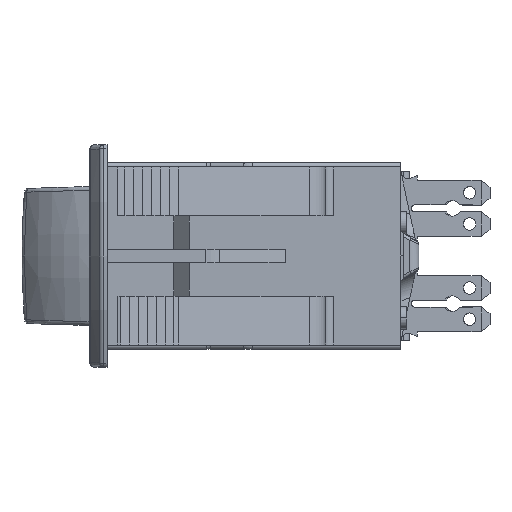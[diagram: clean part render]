
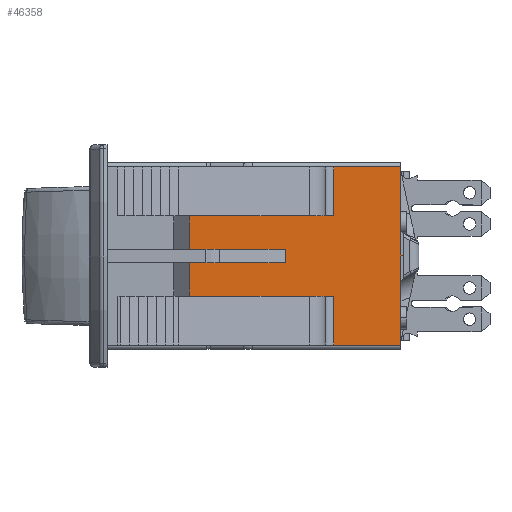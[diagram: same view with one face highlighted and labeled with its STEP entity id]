
A CAD part, left-side view. The second image highlights one B-rep face of the part: STEP entity #46358.
In plain terms, the highlighted planar face has unit normal (-1, 0, 0).
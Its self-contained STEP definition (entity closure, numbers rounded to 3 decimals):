
#13371=DIRECTION('',(0.,-1.,0.));
#13372=VECTOR('',#13371,16.678);
#13373=CARTESIAN_POINT('',(-20.5,16.678,10.05));
#13374=LINE('',#13373,#13372);
#13389=DIRECTION('',(0.,0.,1.));
#13390=VECTOR('',#13389,5.5);
#13391=CARTESIAN_POINT('',(-20.5,7.55,4.5));
#13392=LINE('',#13391,#13390);
#13393=DIRECTION('',(0.,0.,-1.));
#13394=VECTOR('',#13393,5.5);
#13395=CARTESIAN_POINT('',(-20.5,11.559,10.));
#13396=LINE('',#13395,#13394);
#13397=DIRECTION('',(0.,0.,1.));
#13398=VECTOR('',#13397,5.5);
#13399=CARTESIAN_POINT('',(-20.5,7.55,-10.));
#13400=LINE('',#13399,#13398);
#13401=DIRECTION('',(0.,0.,1.));
#13402=VECTOR('',#13401,5.5);
#13403=CARTESIAN_POINT('',(-20.5,11.559,-10.));
#13404=LINE('',#13403,#13402);
#13405=DIRECTION('',(0.001,0.005,-1.));
#13406=VECTOR('',#13405,0.05);
#13407=CARTESIAN_POINT('',(-20.5,16.678,-10.));
#13408=LINE('',#13407,#13406);
#13409=DIRECTION('',(0.,0.,1.));
#13410=VECTOR('',#13409,5.5);
#13411=CARTESIAN_POINT('',(-20.5,16.645,-10.));
#13412=LINE('',#13411,#13410);
#13413=DIRECTION('',(0.,0.,1.));
#13414=VECTOR('',#13413,3.75);
#13415=CARTESIAN_POINT('',(-20.5,23.8,-4.5));
#13416=LINE('',#13415,#13414);
#13417=DIRECTION('',(0.,-1.,0.));
#13418=VECTOR('',#13417,10.8);
#13419=CARTESIAN_POINT('',(-20.5,23.8,-0.75));
#13420=LINE('',#13419,#13418);
#13421=DIRECTION('',(0.,0.,1.));
#13422=VECTOR('',#13421,1.5);
#13423=CARTESIAN_POINT('',(-20.5,13.,-0.75));
#13424=LINE('',#13423,#13422);
#13425=DIRECTION('',(0.,-1.,0.));
#13426=VECTOR('',#13425,10.8);
#13427=CARTESIAN_POINT('',(-20.5,23.8,0.75));
#13428=LINE('',#13427,#13426);
#13429=DIRECTION('',(0.,0.,1.));
#13430=VECTOR('',#13429,3.75);
#13431=CARTESIAN_POINT('',(-20.5,23.8,0.75));
#13432=LINE('',#13431,#13430);
#13433=DIRECTION('',(0.,0.,1.));
#13434=VECTOR('',#13433,5.5);
#13435=CARTESIAN_POINT('',(-20.5,16.645,4.5));
#13436=LINE('',#13435,#13434);
#13437=DIRECTION('',(-0.001,-0.005,-1.));
#13438=VECTOR('',#13437,0.05);
#13439=CARTESIAN_POINT('',(-20.5,16.678,10.05));
#13440=LINE('',#13439,#13438);
#13529=DIRECTION('',(0.,1.,0.));
#13530=VECTOR('',#13529,4.009);
#13531=CARTESIAN_POINT('',(-20.5,7.55,4.5));
#13532=LINE('',#13531,#13530);
#13554=DIRECTION('',(0.,1.,0.));
#13555=VECTOR('',#13554,3.351);
#13556=CARTESIAN_POINT('',(-20.5,16.645,4.5));
#13557=LINE('',#13556,#13555);
#13611=DIRECTION('',(0.,-1.,0.));
#13612=VECTOR('',#13611,3.804);
#13613=CARTESIAN_POINT('',(-20.5,23.8,4.5));
#13614=LINE('',#13613,#13612);
#13804=DIRECTION('',(0.,1.,0.));
#13805=VECTOR('',#13804,4.009);
#13806=CARTESIAN_POINT('',(-20.5,7.55,-10.));
#13807=LINE('',#13806,#13805);
#13843=DIRECTION('',(0.,-1.,0.));
#13844=VECTOR('',#13843,3.804);
#13845=CARTESIAN_POINT('',(-20.5,23.8,-4.5));
#13846=LINE('',#13845,#13844);
#14014=DIRECTION('',(0.,-1.,0.));
#14015=VECTOR('',#14014,3.351);
#14016=CARTESIAN_POINT('',(-20.5,19.996,-4.5));
#14017=LINE('',#14016,#14015);
#14039=DIRECTION('',(0.,-1.,0.));
#14040=VECTOR('',#14039,4.009);
#14041=CARTESIAN_POINT('',(-20.5,11.559,-4.5));
#14042=LINE('',#14041,#14040);
#14236=CARTESIAN_POINT('',(-20.5,16.645,-10.));
#14237=CARTESIAN_POINT('',(-20.5,16.651,-10.));
#14238=CARTESIAN_POINT('',(-20.5,16.662,-10.));
#14239=CARTESIAN_POINT('',(-20.5,16.672,-10.));
#14240=CARTESIAN_POINT('',(-20.5,16.678,-10.));
#14395=DIRECTION('',(0.,0.,1.));
#14396=VECTOR('',#14395,20.1);
#14397=CARTESIAN_POINT('',(-20.5,0.,-10.05));
#14398=LINE('',#14397,#14396);
#22184=DIRECTION('',(0.,1.,0.));
#22185=VECTOR('',#22184,16.678);
#22186=CARTESIAN_POINT('',(-20.5,0.,-10.05));
#22187=LINE('',#22186,#22185);
#23188=DIRECTION('',(0.,-1.,0.));
#23189=VECTOR('',#23188,4.009);
#23190=CARTESIAN_POINT('',(-20.5,11.559,10.));
#23191=LINE('',#23190,#23189);
#23292=CARTESIAN_POINT('',(-20.5,16.678,10.));
#23293=CARTESIAN_POINT('',(-20.5,16.672,10.));
#23294=CARTESIAN_POINT('',(-20.5,16.662,10.));
#23295=CARTESIAN_POINT('',(-20.5,16.651,10.));
#23296=CARTESIAN_POINT('',(-20.5,16.645,10.));
#23599=CARTESIAN_POINT('',(-20.5,23.8,-4.5));
#23601=VERTEX_POINT('',#23599);
#23607=CARTESIAN_POINT('',(-20.5,23.8,4.5));
#23609=VERTEX_POINT('',#23607);
#23614=CARTESIAN_POINT('',(-20.5,23.8,-0.75));
#23615=CARTESIAN_POINT('',(-20.5,13.,-0.75));
#23616=VERTEX_POINT('',#23614);
#23617=VERTEX_POINT('',#23615);
#23618=CARTESIAN_POINT('',(-20.5,23.8,0.75));
#23619=CARTESIAN_POINT('',(-20.5,13.,0.75));
#23620=VERTEX_POINT('',#23618);
#23621=VERTEX_POINT('',#23619);
#23782=CARTESIAN_POINT('',(-20.5,19.996,4.5));
#23783=VERTEX_POINT('',#23782);
#23984=CARTESIAN_POINT('',(-20.5,19.996,-4.5));
#23985=VERTEX_POINT('',#23984);
#26784=CARTESIAN_POINT('',(-20.5,11.559,10.));
#26785=CARTESIAN_POINT('',(-20.5,11.559,4.5));
#26786=VERTEX_POINT('',#26784);
#26787=VERTEX_POINT('',#26785);
#26796=CARTESIAN_POINT('',(-20.5,11.559,-10.));
#26797=CARTESIAN_POINT('',(-20.5,11.559,-4.5));
#26798=VERTEX_POINT('',#26796);
#26799=VERTEX_POINT('',#26797);
#26864=CARTESIAN_POINT('',(-20.5,7.55,4.5));
#26865=CARTESIAN_POINT('',(-20.5,7.55,10.));
#26866=VERTEX_POINT('',#26864);
#26867=VERTEX_POINT('',#26865);
#26872=CARTESIAN_POINT('',(-20.5,7.55,-10.));
#26873=CARTESIAN_POINT('',(-20.5,7.55,-4.5));
#26874=VERTEX_POINT('',#26872);
#26875=VERTEX_POINT('',#26873);
#26980=CARTESIAN_POINT('',(-20.5,16.645,4.5));
#26981=CARTESIAN_POINT('',(-20.5,16.645,10.));
#26982=VERTEX_POINT('',#26980);
#26983=VERTEX_POINT('',#26981);
#26988=CARTESIAN_POINT('',(-20.5,16.645,-10.));
#26989=CARTESIAN_POINT('',(-20.5,16.645,-4.5));
#26990=VERTEX_POINT('',#26988);
#26991=VERTEX_POINT('',#26989);
#27148=CARTESIAN_POINT('',(-20.5,16.677,10.));
#27149=VERTEX_POINT('',#27148);
#27150=CARTESIAN_POINT('',(-20.5,16.677,-10.));
#27151=VERTEX_POINT('',#27150);
#27224=CARTESIAN_POINT('',(-20.5,0.,-10.05));
#27225=CARTESIAN_POINT('',(-20.5,16.678,-10.05));
#27226=VERTEX_POINT('',#27224);
#27227=VERTEX_POINT('',#27225);
#27244=CARTESIAN_POINT('',(-20.5,16.678,10.05));
#27245=CARTESIAN_POINT('',(-20.5,0.,10.05));
#27246=VERTEX_POINT('',#27244);
#27247=VERTEX_POINT('',#27245);
#46296=CARTESIAN_POINT('',(-20.5,17.2,-10.5));
#46297=DIRECTION('',(-1.,0.,0.));
#46298=DIRECTION('',(0.,-1.,0.));
#46299=AXIS2_PLACEMENT_3D('',#46296,#46297,#46298);
#46300=PLANE('',#46299);
#46302=ORIENTED_EDGE('',*,*,#46301,.T.);
#46304=ORIENTED_EDGE('',*,*,#46303,.F.);
#46306=ORIENTED_EDGE('',*,*,#46305,.F.);
#46308=ORIENTED_EDGE('',*,*,#46307,.T.);
#46310=ORIENTED_EDGE('',*,*,#46309,.F.);
#46312=ORIENTED_EDGE('',*,*,#46311,.F.);
#46314=ORIENTED_EDGE('',*,*,#46313,.T.);
#46316=ORIENTED_EDGE('',*,*,#46315,.T.);
#46318=ORIENTED_EDGE('',*,*,#46317,.T.);
#46320=ORIENTED_EDGE('',*,*,#46319,.F.);
#46322=ORIENTED_EDGE('',*,*,#46321,.T.);
#46324=ORIENTED_EDGE('',*,*,#46323,.T.);
#46326=ORIENTED_EDGE('',*,*,#46325,.F.);
#46328=ORIENTED_EDGE('',*,*,#46327,.T.);
#46330=ORIENTED_EDGE('',*,*,#46329,.F.);
#46332=ORIENTED_EDGE('',*,*,#46331,.F.);
#46333=ORIENTED_EDGE('',*,*,#46287,.T.);
#46335=ORIENTED_EDGE('',*,*,#46334,.F.);
#46336=EDGE_LOOP('',(#46302,#46304,#46306,#46308,#46310,#46312,#46314,#46316,
#46318,#46320,#46322,#46324,#46326,#46328,#46330,#46332,#46333,#46335));
#46337=FACE_OUTER_BOUND('',#46336,.F.);
#46339=ORIENTED_EDGE('',*,*,#46338,.T.);
#46341=ORIENTED_EDGE('',*,*,#46340,.F.);
#46343=ORIENTED_EDGE('',*,*,#46342,.F.);
#46345=ORIENTED_EDGE('',*,*,#46344,.F.);
#46346=EDGE_LOOP('',(#46339,#46341,#46343,#46345));
#46347=FACE_BOUND('',#46346,.F.);
#46349=ORIENTED_EDGE('',*,*,#46348,.T.);
#46351=ORIENTED_EDGE('',*,*,#46350,.F.);
#46353=ORIENTED_EDGE('',*,*,#46352,.T.);
#46355=ORIENTED_EDGE('',*,*,#46354,.F.);
#46356=EDGE_LOOP('',(#46349,#46351,#46353,#46355));
#46357=FACE_BOUND('',#46356,.F.);
#14241=B_SPLINE_CURVE_WITH_KNOTS('',3,(#14236,#14237,#14238,#14239,#14240),
.UNSPECIFIED.,.F.,.F.,(4,1,4),(0.,0.5,1.),.UNSPECIFIED.);
#23297=B_SPLINE_CURVE_WITH_KNOTS('',3,(#23292,#23293,#23294,#23295,#23296),
.UNSPECIFIED.,.F.,.F.,(4,1,4),(0.,0.5,1.),.UNSPECIFIED.);
#46287=EDGE_CURVE('',#27246,#27247,#13374,.T.);
#46301=EDGE_CURVE('',#27226,#27227,#22187,.T.);
#46303=EDGE_CURVE('',#27151,#27227,#13408,.T.);
#46305=EDGE_CURVE('',#26990,#27151,#14241,.T.);
#46307=EDGE_CURVE('',#26990,#26991,#13412,.T.);
#46309=EDGE_CURVE('',#23985,#26991,#14017,.T.);
#46311=EDGE_CURVE('',#23601,#23985,#13846,.T.);
#46313=EDGE_CURVE('',#23601,#23616,#13416,.T.);
#46315=EDGE_CURVE('',#23616,#23617,#13420,.T.);
#46317=EDGE_CURVE('',#23617,#23621,#13424,.T.);
#46319=EDGE_CURVE('',#23620,#23621,#13428,.T.);
#46321=EDGE_CURVE('',#23620,#23609,#13432,.T.);
#46323=EDGE_CURVE('',#23609,#23783,#13614,.T.);
#46325=EDGE_CURVE('',#26982,#23783,#13557,.T.);
#46327=EDGE_CURVE('',#26982,#26983,#13436,.T.);
#46329=EDGE_CURVE('',#27149,#26983,#23297,.T.);
#46331=EDGE_CURVE('',#27246,#27149,#13440,.T.);
#46334=EDGE_CURVE('',#27226,#27247,#14398,.T.);
#46338=EDGE_CURVE('',#26874,#26875,#13400,.T.);
#46340=EDGE_CURVE('',#26799,#26875,#14042,.T.);
#46342=EDGE_CURVE('',#26798,#26799,#13404,.T.);
#46344=EDGE_CURVE('',#26874,#26798,#13807,.T.);
#46348=EDGE_CURVE('',#26866,#26867,#13392,.T.);
#46350=EDGE_CURVE('',#26786,#26867,#23191,.T.);
#46352=EDGE_CURVE('',#26786,#26787,#13396,.T.);
#46354=EDGE_CURVE('',#26866,#26787,#13532,.T.);
#46358=ADVANCED_FACE('',(#46337,#46347,#46357),#46300,.T.);
